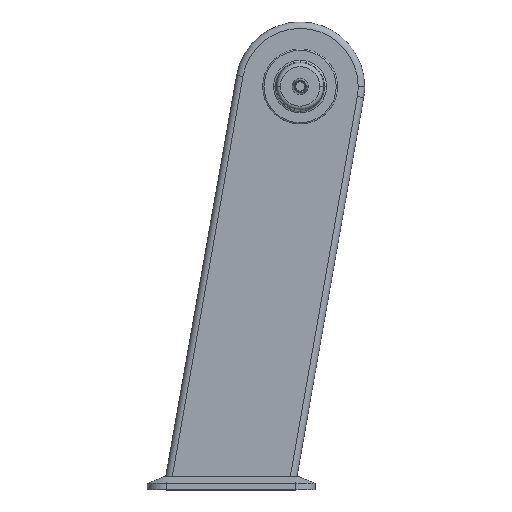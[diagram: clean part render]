
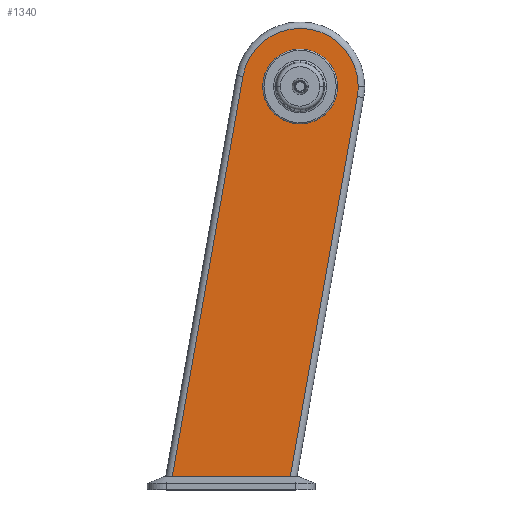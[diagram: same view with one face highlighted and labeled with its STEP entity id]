
A CAD part, top view. The second image highlights one B-rep face of the part: STEP entity #1340.
In plain terms, the highlighted planar face has unit normal (0, 0, 1).
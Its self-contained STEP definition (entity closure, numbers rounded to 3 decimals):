
#36 = AXIS2_PLACEMENT_3D ( 'NONE', #349, #1752, #561 ) ;
#54 = AXIS2_PLACEMENT_3D ( 'NONE', #1090, #2462, #1285 ) ;
#113 = EDGE_CURVE ( 'NONE', #2336, #1897, #1578, .T. ) ;
#128 = EDGE_CURVE ( 'NONE', #215, #169, #2570, .T. ) ;
#169 = VERTEX_POINT ( 'NONE', #1279 ) ;
#211 = DIRECTION ( 'NONE',  ( 0.174, 0.985, 0. ) ) ;
#215 = VERTEX_POINT ( 'NONE', #2081 ) ;
#237 = LINE ( 'NONE', #1349, #1129 ) ;
#327 = CARTESIAN_POINT ( 'NONE',  ( 0., 0., 31.25 ) ) ;
#333 = EDGE_CURVE ( 'NONE', #169, #680, #2195, .T. ) ;
#349 = CARTESIAN_POINT ( 'NONE',  ( 0., 0., 31.25 ) ) ;
#426 = VERTEX_POINT ( 'NONE', #2160 ) ;
#448 = CIRCLE ( 'NONE', #54, 58. ) ;
#517 = CARTESIAN_POINT ( 'NONE',  ( 0., 0., 31.25 ) ) ;
#537 = DIRECTION ( 'NONE',  ( 1., 0., 0. ) ) ;
#561 = DIRECTION ( 'NONE',  ( 1., 0., 0. ) ) ;
#586 = VECTOR ( 'NONE', #1040, 1000. ) ;
#669 = EDGE_CURVE ( 'NONE', #426, #681, #448, .T. ) ;
#671 = ORIENTED_EDGE ( 'NONE', *, *, #1805, .F. ) ;
#680 = VERTEX_POINT ( 'NONE', #2275 ) ;
#681 = VERTEX_POINT ( 'NONE', #889 ) ;
#785 = ORIENTED_EDGE ( 'NONE', *, *, #1377, .T. ) ;
#863 = DIRECTION ( 'NONE',  ( 0., 0., 1. ) ) ;
#889 = CARTESIAN_POINT ( 'NONE',  ( -58., 0., 31.25 ) ) ;
#972 = VECTOR ( 'NONE', #211, 1000. ) ;
#1032 = AXIS2_PLACEMENT_3D ( 'NONE', #2044, #863, #2245 ) ;
#1040 = DIRECTION ( 'NONE',  ( 1., 0., 0. ) ) ;
#1080 = EDGE_LOOP ( 'NONE', ( #1523, #671 ) ) ;
#1090 = CARTESIAN_POINT ( 'NONE',  ( 0., 0., 31.25 ) ) ;
#1113 = AXIS2_PLACEMENT_3D ( 'NONE', #327, #1725, #537 ) ;
#1129 = VECTOR ( 'NONE', #2524, 1000. ) ;
#1135 = DIRECTION ( 'NONE',  ( 0., 0., 1. ) ) ;
#1223 = CARTESIAN_POINT ( 'NONE',  ( 88.633, -15.628, 31.25 ) ) ;
#1268 = CIRCLE ( 'NONE', #36, 58. ) ;
#1279 = CARTESIAN_POINT ( 'NONE',  ( 90., 0., 31.25 ) ) ;
#1285 = DIRECTION ( 'NONE',  ( 1., 0., 0. ) ) ;
#1340 = ADVANCED_FACE ( 'NONE', ( #2302, #1895 ), #1909, .T. ) ;
#1349 = CARTESIAN_POINT ( 'NONE',  ( -201.899, -626.736, 31.25 ) ) ;
#1377 = EDGE_CURVE ( 'NONE', #680, #2336, #237, .T. ) ;
#1396 = CARTESIAN_POINT ( 'NONE',  ( -198.066, -605., 31.25 ) ) ;
#1449 = EDGE_CURVE ( 'NONE', #1897, #215, #1524, .T. ) ;
#1481 = ORIENTED_EDGE ( 'NONE', *, *, #333, .T. ) ;
#1523 = ORIENTED_EDGE ( 'NONE', *, *, #669, .F. ) ;
#1524 = LINE ( 'NONE', #1223, #972 ) ;
#1570 = CARTESIAN_POINT ( 'NONE',  ( -15.289, -605., 31.25 ) ) ;
#1578 = LINE ( 'NONE', #2218, #586 ) ;
#1632 = ORIENTED_EDGE ( 'NONE', *, *, #128, .T. ) ;
#1725 = DIRECTION ( 'NONE',  ( 0., 0., 1. ) ) ;
#1752 = DIRECTION ( 'NONE',  ( 0., 0., 1. ) ) ;
#1805 = EDGE_CURVE ( 'NONE', #681, #426, #1268, .T. ) ;
#1895 = FACE_BOUND ( 'NONE', #1080, .T. ) ;
#1897 = VERTEX_POINT ( 'NONE', #1570 ) ;
#1909 = PLANE ( 'NONE',  #2340 ) ;
#1954 = ORIENTED_EDGE ( 'NONE', *, *, #1449, .T. ) ;
#2044 = CARTESIAN_POINT ( 'NONE',  ( 0., 0., 31.25 ) ) ;
#2081 = CARTESIAN_POINT ( 'NONE',  ( 88.633, -15.628, 31.25 ) ) ;
#2160 = CARTESIAN_POINT ( 'NONE',  ( 58., 0., 31.25 ) ) ;
#2195 = CIRCLE ( 'NONE', #1113, 90. ) ;
#2207 = ORIENTED_EDGE ( 'NONE', *, *, #113, .T. ) ;
#2218 = CARTESIAN_POINT ( 'NONE',  ( 0., -605., 31.25 ) ) ;
#2245 = DIRECTION ( 'NONE',  ( 1., 0., 0. ) ) ;
#2261 = EDGE_LOOP ( 'NONE', ( #785, #2207, #1954, #1632, #1481 ) ) ;
#2275 = CARTESIAN_POINT ( 'NONE',  ( -88.633, 15.628, 31.25 ) ) ;
#2302 = FACE_OUTER_BOUND ( 'NONE', #2261, .T. ) ;
#2336 = VERTEX_POINT ( 'NONE', #1396 ) ;
#2340 = AXIS2_PLACEMENT_3D ( 'NONE', #517, #1135, #2503 ) ;
#2462 = DIRECTION ( 'NONE',  ( 0., 0., 1. ) ) ;
#2503 = DIRECTION ( 'NONE',  ( 1., 0., 0. ) ) ;
#2524 = DIRECTION ( 'NONE',  ( -0.174, -0.985, 0. ) ) ;
#2570 = CIRCLE ( 'NONE', #1032, 90. ) ;
